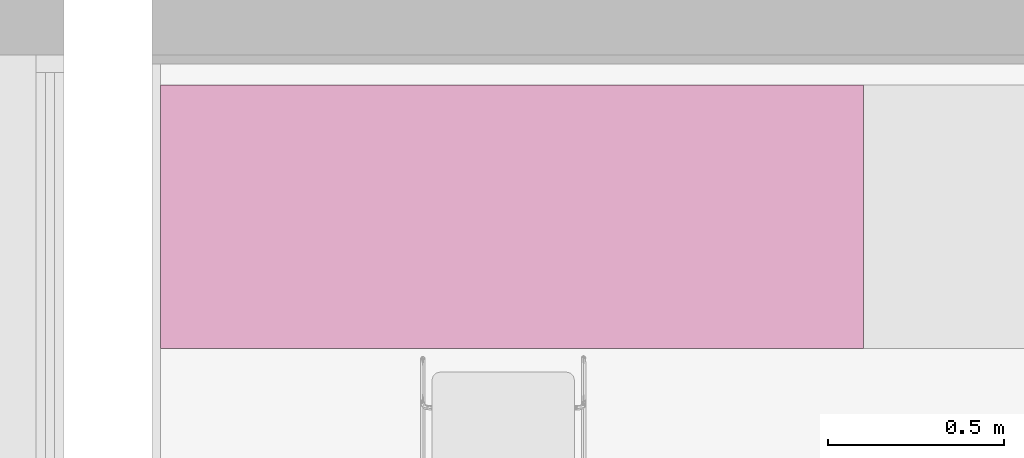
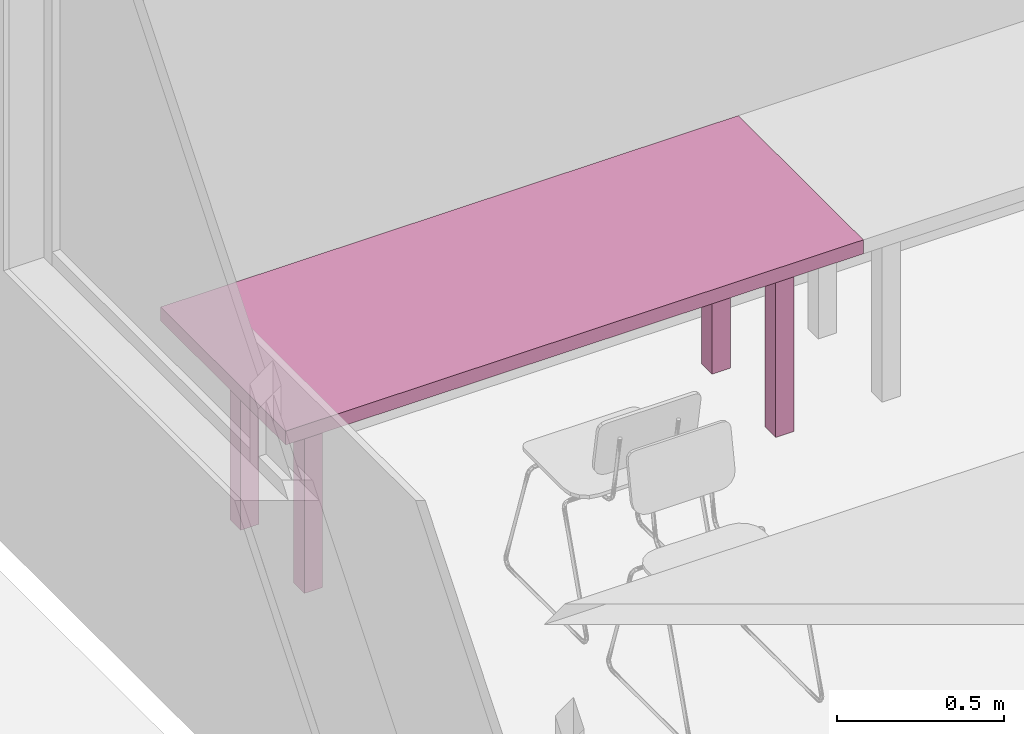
# One storey, part 25 of 27: 1 furnishing.
"""IFC2X3 building model written with IfcOpenShell, lengths in centimetres."""

from ifc_helpers import new_model, entity, si_unit, converted_unit, derived_unit, direction, frame, frame_2d, origin, origin_2d_with_axis, place, context, subcontext, project, spatial, rectangle, extrude, source, transform, mapped, material, material_list, type_object, type_shapes, element, save


model = new_model("IFC2X3")

# Units and contexts
model_context = context("Model", 3, precision=0.001, world=origin(), true_north=direction((6.12303176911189e-17, 1.0)))
body_context = subcontext(model_context, "Body", "Model", "MODEL_VIEW")
ifc_project = project(units=[si_unit("LENGTHUNIT", "METRE", prefix="CENTI"), si_unit("AREAUNIT", "SQUARE_METRE"), si_unit("VOLUMEUNIT", "CUBIC_METRE"), converted_unit("PLANEANGLEUNIT", "DEGREE", entity("IfcRatioMeasure", 0.0174532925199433), si_unit("PLANEANGLEUNIT", "RADIAN"), dimensions=[0, 0, 0, 0, 0, 0, 0]), si_unit("MASSUNIT", "GRAM", prefix="KILO"), derived_unit("MASSDENSITYUNIT", [(si_unit("MASSUNIT", "GRAM", prefix="KILO"), 1), (si_unit("LENGTHUNIT", "METRE"), -3)]), derived_unit("MOMENTOFINERTIAUNIT", [(si_unit("LENGTHUNIT", "METRE"), 4)]), si_unit("TIMEUNIT", "SECOND"), si_unit("FREQUENCYUNIT", "HERTZ"), si_unit("THERMODYNAMICTEMPERATUREUNIT", "DEGREE_CELSIUS"), derived_unit("THERMALTRANSMITTANCEUNIT", [(si_unit("MASSUNIT", "GRAM", prefix="KILO"), 1), (si_unit("THERMODYNAMICTEMPERATUREUNIT", "KELVIN"), -1), (si_unit("TIMEUNIT", "SECOND"), -3)]), derived_unit("VOLUMETRICFLOWRATEUNIT", [(si_unit("LENGTHUNIT", "METRE"), 3), (si_unit("TIMEUNIT", "SECOND"), -1)]), si_unit("ELECTRICCURRENTUNIT", "AMPERE"), si_unit("ELECTRICVOLTAGEUNIT", "VOLT"), si_unit("POWERUNIT", "WATT"), si_unit("FORCEUNIT", "NEWTON", prefix="KILO"), si_unit("ILLUMINANCEUNIT", "LUX"), si_unit("LUMINOUSFLUXUNIT", "LUMEN"), si_unit("LUMINOUSINTENSITYUNIT", "CANDELA"), derived_unit("USERDEFINED", [(si_unit("MASSUNIT", "GRAM", prefix="KILO"), -1), (si_unit("LENGTHUNIT", "METRE"), -2), (si_unit("TIMEUNIT", "SECOND"), 3), (si_unit("LUMINOUSFLUXUNIT", "LUMEN"), 1)]), derived_unit("LINEARVELOCITYUNIT", [(si_unit("LENGTHUNIT", "METRE"), 1), (si_unit("TIMEUNIT", "SECOND"), -1)]), si_unit("PRESSUREUNIT", "PASCAL"), derived_unit("USERDEFINED", [(si_unit("LENGTHUNIT", "METRE"), -2), (si_unit("MASSUNIT", "GRAM", prefix="KILO"), 1), (si_unit("TIMEUNIT", "SECOND"), -2)]), derived_unit("LINEARFORCEUNIT", [(si_unit("MASSUNIT", "GRAM", prefix="KILO"), 1), (si_unit("LENGTHUNIT", "METRE"), 1), (si_unit("TIMEUNIT", "SECOND"), -2), (si_unit("LENGTHUNIT", "METRE"), -1)]), derived_unit("PLANARFORCEUNIT", [(si_unit("MASSUNIT", "GRAM", prefix="KILO"), 1), (si_unit("LENGTHUNIT", "METRE"), 1), (si_unit("TIMEUNIT", "SECOND"), -2), (si_unit("LENGTHUNIT", "METRE"), -2)])], contexts=[model_context])

# Site, building, storey
site_placement = place(None, origin())
site = spatial("IfcSite", under=ifc_project, at=site_placement, Name="Default", CompositionType="ELEMENT")
building_placement = place(site_placement, origin())
building = spatial("IfcBuilding", under=site, at=building_placement, CompositionType="ELEMENT")
storey_placement = place(building_placement, origin())
storey = spatial("IfcBuildingStorey", under=building, at=storey_placement, Name="Poziom 0 A +/-0,00", CompositionType="ELEMENT", Elevation=3.38570427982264e-11)

# Furnishing
ifc_material = material(Name="MDF biały")
ifc_material_list_1 = material_list([ifc_material, ifc_material, ifc_material, ifc_material, ifc_material])
ifc_material_list_2 = material_list([ifc_material, ifc_material, ifc_material, ifc_material, ifc_material])
furniture_type = type_object("IfcFurnitureType", Name="Stół - prostokątny:2000 x 750 mm", material=ifc_material_list_2)
shared_shape = source(origin(), body_context, "Body", "SweptSolid", [
    extrude(rectangle(XDim=200.0, YDim=75.0, at=origin_2d_with_axis()), frame((0.0, 0.0, 68.92), z_axis=(0.0, 0.0, 1.0), x_axis=(-1.0, 0.0, 0.0)), (0.0, 0.0, 1.0), 5.08),
    extrude(rectangle(XDim=6.35000000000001, YDim=6.35000000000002, at=origin_2d_with_axis()), frame((81.585, 19.0850000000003, 0.0), z_axis=(0.0, 0.0, 1.0), x_axis=(0.0, -1.0, 0.0)), (0.0, 0.0, 1.0), 68.92),
    extrude(rectangle(XDim=6.34999999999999, YDim=6.35000000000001, at=frame_2d((1.35447209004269e-14, 0.0), x_axis=(1.0, 0.0))), frame((-81.5849999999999, 19.0850000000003, 0.0), z_axis=(0.0, 0.0, 1.0), x_axis=(-1.0, 0.0, 0.0)), (0.0, 0.0, 1.0), 68.92),
    extrude(rectangle(XDim=6.35, YDim=6.34999999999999, at=origin_2d_with_axis()), frame((-81.585, -19.0850000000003, 0.0), z_axis=(0.0, 0.0, 1.0), x_axis=(0.0, 1.0, 0.0)), (0.0, 0.0, 1.0), 68.92),
    extrude(rectangle(XDim=6.35000000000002, YDim=6.35, at=origin_2d_with_axis()), frame((81.585, -19.0850000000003, 0.0)), (0.0, 0.0, 1.0), 68.92),
])
type_shapes(furniture_type, [shared_shape])
furnishing_placement = place(storey_placement, frame((-2806.7650963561, 1313.10597996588, 0.6)))
element("IfcFurnishingElement", 1, at=furnishing_placement, inside=storey, type_object=furniture_type, material=ifc_material_list_1, Name="Stół - prostokątny:2000 x 750 mm", ObjectType="Stół - prostokątny:2000 x 750 mm", context=body_context, shape_type="MappedRepresentation", body=[
    mapped(shared_shape, transform((0.0, 0.0, 0.0), scale=1.0)),
])

save(model, "model.ifc")
